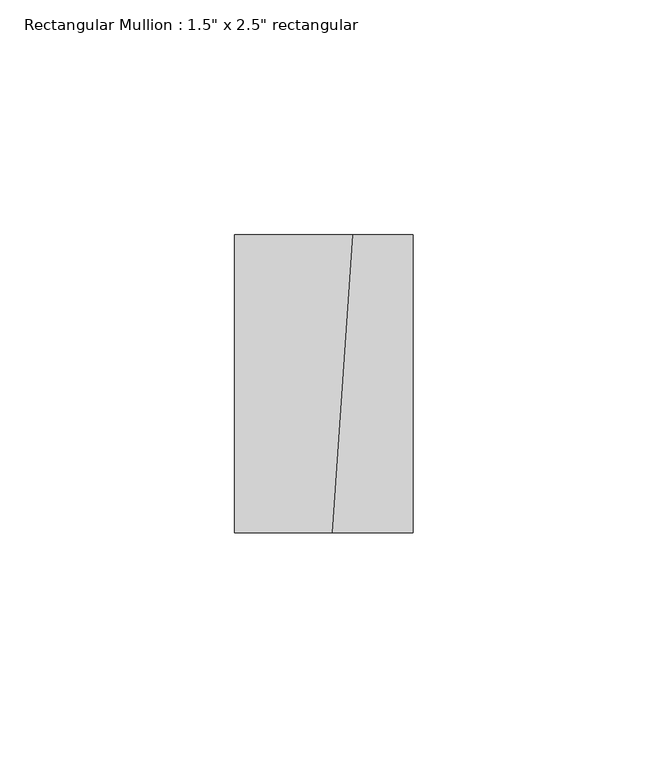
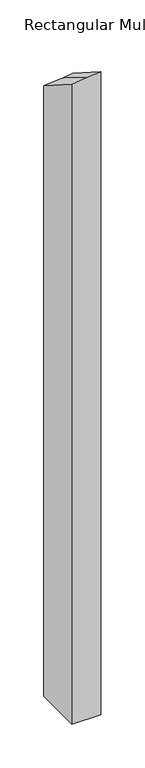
"""IFC4 building model written with IfcOpenShell, lengths in millimetres: member geometry."""

from ifc_helpers import new_model, si_unit, origin, place, context, project, spatial, faceted_brep, source, transform, mapped, element, save


def member_e6a3a933(model_context):
    return source(origin(), model_context, "Body", "Brep", [
        faceted_brep([(19.05, 31.75, -909.7736989), (19.05, -31.75, -909.7736989), (-19.05, -31.75, -909.7736989), (-19.05, 31.75, -909.7736989), (-19.05, 31.75, -59.9387364), (6.2758271, 31.75, -57.7945724), (19.05, 31.75, -56.1002392), (-19.05, -31.75, -19.0199893), (19.05, -31.75, -14.9702696), (1.8729981, -31.75, -17.2485827)], [[[0, 1, 2, 3]], [[4, 5, 6, 0, 3]], [[7, 4, 3, 2]], [[8, 9, 7, 2, 1]], [[6, 8, 1, 0]], [[6, 5, 9, 8]], [[5, 4, 7, 9]]]),
    ])


if __name__ == "__main__":
    model = new_model("IFC4")
    model_context = context("Model", 3, world=origin())
    ifc_project = project(units=[si_unit("LENGTHUNIT", "METRE", prefix="MILLI")], contexts=[model_context])
    site = spatial("IfcSite", under=ifc_project)
    building = spatial("IfcBuilding", under=site)
    placement = place(None, origin())
    member_shape = member_e6a3a933(model_context)
    element("IfcMember", 1, ObjectType="Rectangular Mullion : 1.5\" x 2.5\" rectangular", at=placement, inside=building, context=model_context, shape_type="MappedRepresentation", body=[
        mapped(member_shape, transform((0.0, 0.0, 0.0), x_axis=(1.0, 0.0, 0.0), y_axis=(0.0, 1.0, 0.0), z_axis=(0.0, 0.0, 1.0))),
    ])
    save(model, "model.ifc")
